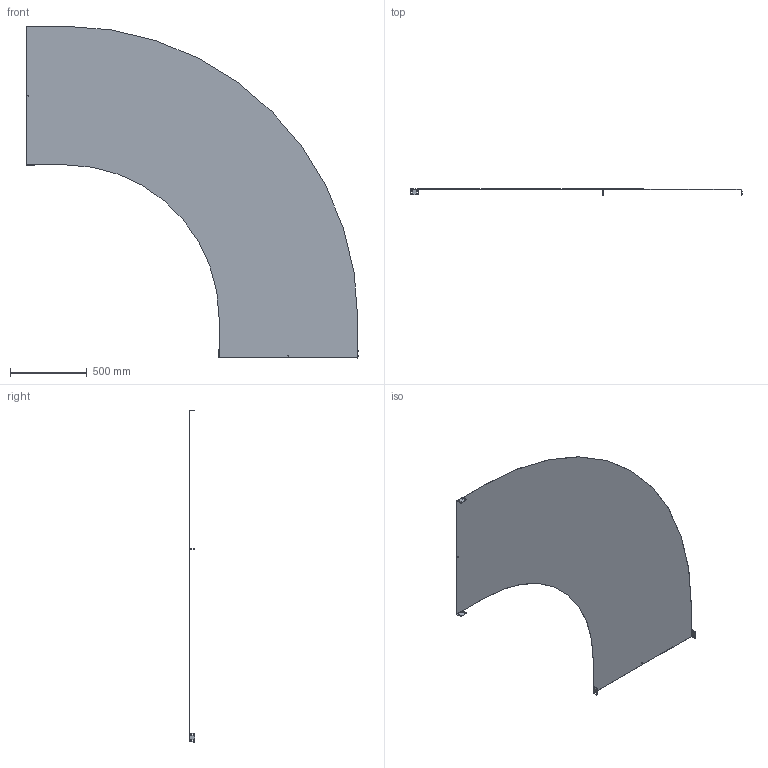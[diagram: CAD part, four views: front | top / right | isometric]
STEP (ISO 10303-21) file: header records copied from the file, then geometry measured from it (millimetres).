
FILE_DESCRIPTION (( 'STEP AP203' ), '1' );
FILE_NAME ('UKD109 (R1000).STEP', '2015-03-30T13:21:19', ( '' ), ( '' ), 'SwSTEP 2.0', 'SolidWorks 2014', '' );
FILE_SCHEMA (( 'CONFIG_CONTROL_DESIGN' ));
Length unit declared in the file: millimetre
Products named in the file (1): UKD109 (R1000)
Bounding box: 2161 x 37 x 2161 mm (x, y, z)
Volume: 3032412.3 mm3; surface area: 5064180.1 mm2
Topology: 1 solids, 1 shells, 166 faces, 484 edges, 296 vertices
Faces by surface type: plane 128, cylinder 38
Entity records: 5573 total; most frequent: ORIENTED_EDGE 968, DIRECTION 958, CARTESIAN_POINT 947, EDGE_CURVE 484, VECTOR 344, LINE 344, AXIS2_PLACEMENT_3D 307, VERTEX_POINT 296
